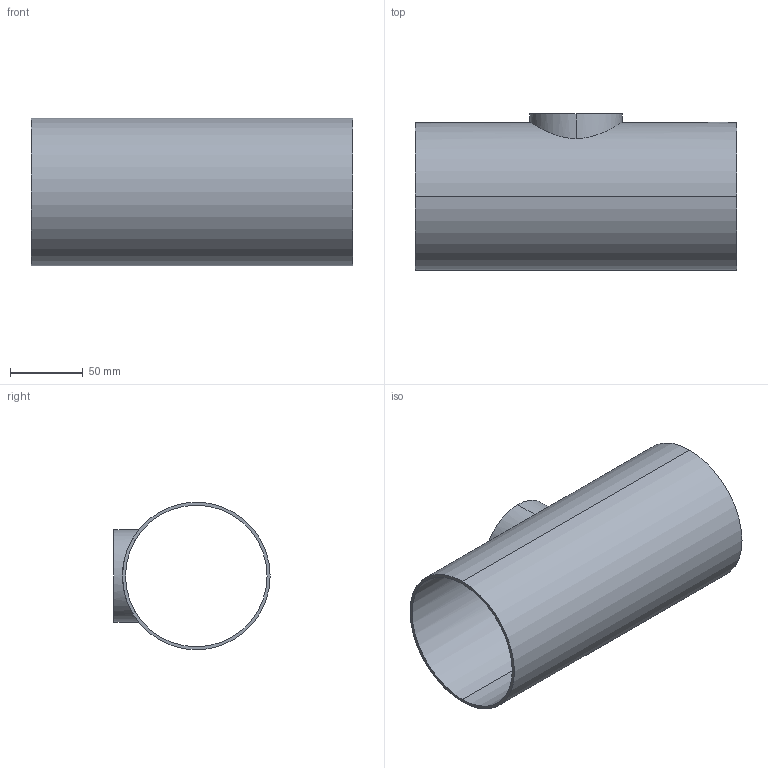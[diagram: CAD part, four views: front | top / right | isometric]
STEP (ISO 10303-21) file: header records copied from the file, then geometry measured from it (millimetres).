
FILE_DESCRIPTION (( 'STEP AP214' ), '1' );
FILE_NAME ('TEG7RS6L4.0x2.5-...STEP', '2016-05-24T11:07:04', ( 'eran' ), ( '' ), 'SwSTEP 2.0', 'SolidWorks 2016', '' );
FILE_SCHEMA (( 'AUTOMOTIVE_DESIGN' ));
Length unit declared in the file: millimetre
Products named in the file (1): TEG7RS6L4.0x2.5-..
Bounding box: 221.4 x 107.5 x 101.6 mm (x, y, z)
Volume: 143213.2 mm3; surface area: 138408.2 mm2
Topology: 1 solids, 1 shells, 11 faces, 24 edges, 16 vertices
Faces by surface type: cylinder 8, plane 3
Entity records: 604 total; most frequent: CARTESIAN_POINT 312, DIRECTION 56, ORIENTED_EDGE 48, EDGE_CURVE 24, AXIS2_PLACEMENT_3D 24, EDGE_LOOP 16, VERTEX_POINT 16, CIRCLE 12
